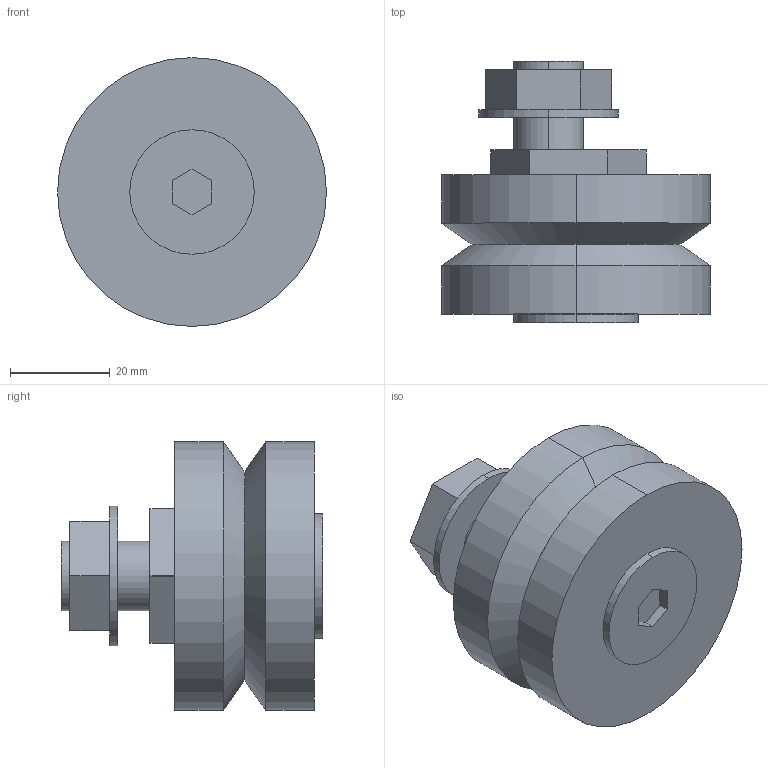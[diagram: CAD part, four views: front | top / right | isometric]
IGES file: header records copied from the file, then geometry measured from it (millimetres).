
Start section: 3D InterOp IGES (v. 2019 1.0.2), Spatial Corp. Copyright (c) 1999-2017.
Global section: file name: SJ 54 DE.igs; native system: Spatial Corp.; preprocessor: 3D InterOp GENERIC/IGES 3.0; author: Noname; organization: Noname; date: 20220628.165359; units: millimetre
Bounding box: 54 x 52.5 x 54 mm (x, y, z)
Surface area: 12877.8 mm2 (no closed solid volume)
Topology: 0 solids, 0 shells, 50 faces, 228 edges, 228 vertices
Faces by surface type: extrusion 34, revolution 16
